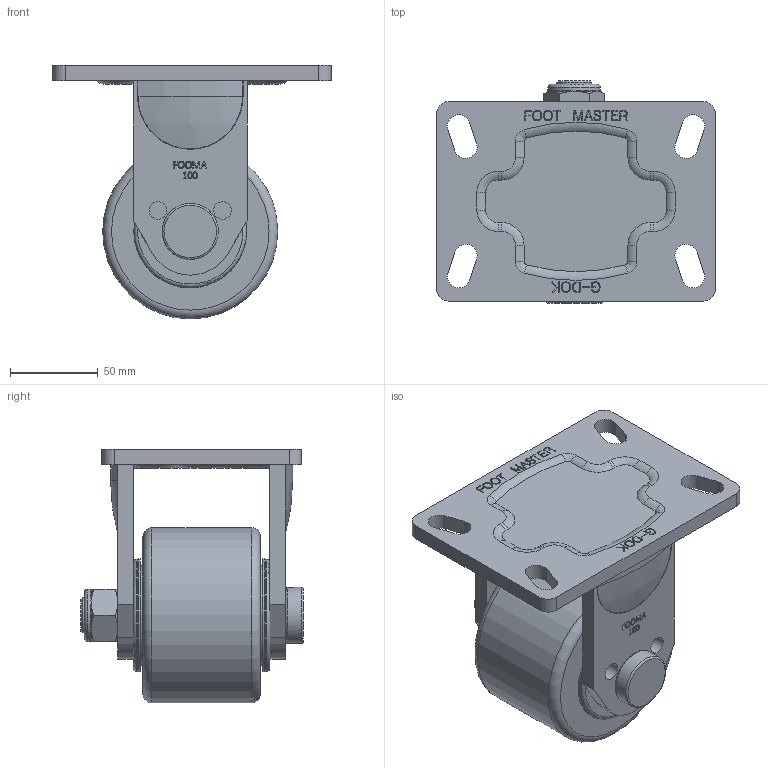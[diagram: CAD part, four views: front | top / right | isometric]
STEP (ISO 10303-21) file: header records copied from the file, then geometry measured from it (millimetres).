
FILE_DESCRIPTION(/* description */ (''),/* implementation_level */ '2;1');
FILE_NAME(/* name */ 'C:\Users\GR-DT-1-010\Desktop\GF-MCD\GF-100-MCD\step파일\GF-100-ARF-MCD.stp',/* time_stamp */ '2019-08-29T18:56:27+09:00',/* author */ ('GR-DT-1-010'),/* organization */ (''),/* preprocessor_version */ 'ST-DEVELOPER v16.13',/* originating_system */ 'Autodesk Inventor 2018',/* authorisation */ '');
FILE_SCHEMA (('AUTOMOTIVE_DESIGN { 1 0 10303 214 3 1 1 }'));
Length unit declared in the file: millimetre
Products named in the file (1): GF-100-ARF-MCD
Bounding box: 159 x 127 x 145 mm (x, y, z)
Volume: 846390.5 mm3; surface area: 109107.1 mm2
Topology: 1 solids, 1 shells, 803 faces, 2202 edges, 1439 vertices
Faces by surface type: bspline 402, plane 279, cylinder 62, torus 36, cone 16, sphere 8
Full cylindrical faces by diameter (mm): 10 x4, 20 x3, 30 x1, 32 x1, 57 x2, 64.519 x2, 100 x1
Entity records: 27858 total; most frequent: CARTESIAN_POINT 10275, ORIENTED_EDGE 4300, DIRECTION 2393, EDGE_CURVE 2150, VERTEX_POINT 1431, LINE 1079, VECTOR 1079, EDGE_LOOP 903
